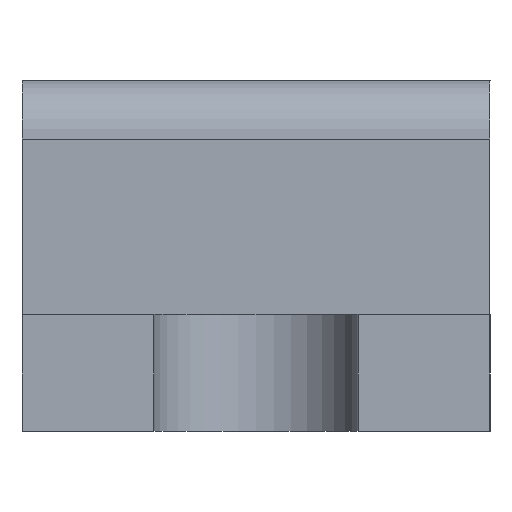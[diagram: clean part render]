
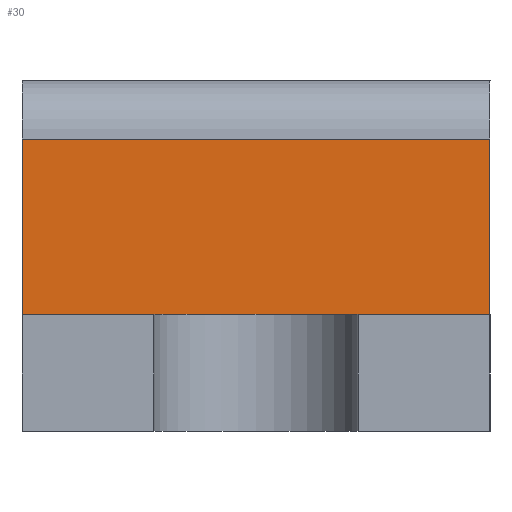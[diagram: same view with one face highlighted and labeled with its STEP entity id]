
A CAD part, left-side view. The second image highlights one B-rep face of the part: STEP entity #30.
In plain terms, the highlighted planar face has unit normal (-1, 0, 0).
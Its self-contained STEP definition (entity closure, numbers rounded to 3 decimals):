
#30 = ADVANCED_FACE ( 'NONE', ( #431 ), #197, .F. ) ;
#60 = DIRECTION ( 'NONE',  ( 0., 0., -1. ) ) ;
#64 = VECTOR ( 'NONE', #344, 1000. ) ;
#81 = ORIENTED_EDGE ( 'NONE', *, *, #198, .F. ) ;
#97 = EDGE_CURVE ( 'NONE', #498, #541, #116, .T. ) ;
#111 = VECTOR ( 'NONE', #221, 1000. ) ;
#116 = LINE ( 'NONE', #245, #386 ) ;
#122 = CARTESIAN_POINT ( 'NONE',  ( -0.5, -0.4, 0.5 ) ) ;
#129 = VERTEX_POINT ( 'NONE', #191 ) ;
#131 = ORIENTED_EDGE ( 'NONE', *, *, #394, .T. ) ;
#157 = CARTESIAN_POINT ( 'NONE',  ( -0.5, 0.4, 0.6 ) ) ;
#163 = CARTESIAN_POINT ( 'NONE',  ( -0.5, 0.4, 0.2 ) ) ;
#186 = ORIENTED_EDGE ( 'NONE', *, *, #97, .T. ) ;
#191 = CARTESIAN_POINT ( 'NONE',  ( -0.5, -0.4, 0.2 ) ) ;
#193 = LINE ( 'NONE', #277, #194 ) ;
#194 = VECTOR ( 'NONE', #60, 1000. ) ;
#197 = PLANE ( 'NONE',  #299 ) ;
#198 = EDGE_CURVE ( 'NONE', #492, #129, #193, .T. ) ;
#200 = DIRECTION ( 'NONE',  ( 1., 0., 0. ) ) ;
#221 = DIRECTION ( 'NONE',  ( 0., 1., 0. ) ) ;
#245 = CARTESIAN_POINT ( 'NONE',  ( -0.5, 0.4, 0.6 ) ) ;
#258 = LINE ( 'NONE', #591, #111 ) ;
#277 = CARTESIAN_POINT ( 'NONE',  ( -0.5, -0.4, 0.6 ) ) ;
#295 = DIRECTION ( 'NONE',  ( 0., 1., 0. ) ) ;
#299 = AXIS2_PLACEMENT_3D ( 'NONE', #157, #200, #295 ) ;
#344 = DIRECTION ( 'NONE',  ( 0., -1., 0. ) ) ;
#361 = EDGE_LOOP ( 'NONE', ( #81, #580, #186, #131 ) ) ;
#364 = EDGE_CURVE ( 'NONE', #492, #498, #258, .T. ) ;
#386 = VECTOR ( 'NONE', #427, 1000. ) ;
#390 = CARTESIAN_POINT ( 'NONE',  ( -0.5, 0.4, 0.5 ) ) ;
#394 = EDGE_CURVE ( 'NONE', #541, #129, #442, .T. ) ;
#427 = DIRECTION ( 'NONE',  ( 0., 0., -1. ) ) ;
#431 = FACE_OUTER_BOUND ( 'NONE', #361, .T. ) ;
#442 = LINE ( 'NONE', #534, #64 ) ;
#492 = VERTEX_POINT ( 'NONE', #122 ) ;
#498 = VERTEX_POINT ( 'NONE', #390 ) ;
#534 = CARTESIAN_POINT ( 'NONE',  ( -0.5, 0.4, 0.2 ) ) ;
#541 = VERTEX_POINT ( 'NONE', #163 ) ;
#580 = ORIENTED_EDGE ( 'NONE', *, *, #364, .T. ) ;
#591 = CARTESIAN_POINT ( 'NONE',  ( -0.5, 0.4, 0.5 ) ) ;
